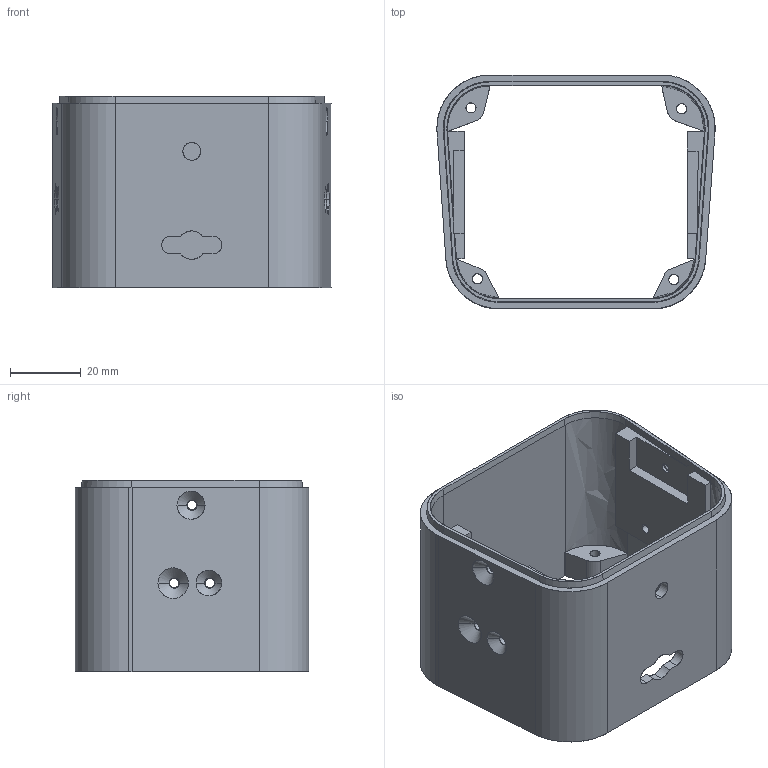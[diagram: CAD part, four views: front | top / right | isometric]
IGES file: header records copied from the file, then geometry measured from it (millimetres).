
Start section: SolidWorks IGES file using analytic representation for surfaces
Global section: file name: C:\Users\Atakan\Documents\tridi\Bantaþ kamera\step-iges\kasa v4.IGS; native system: SolidWorks 2015; preprocessor: SolidWorks 2015; author: Atakan; date: 161103.171146; units: millimetre
Bounding box: 78.59 x 66 x 54 mm (x, y, z)
Surface area: 30317.4 mm2 (no closed solid volume)
Topology: 0 solids, 0 shells, 128 faces, 2152 edges, 2152 vertices
Faces by surface type: revolution 65, bspline 63
